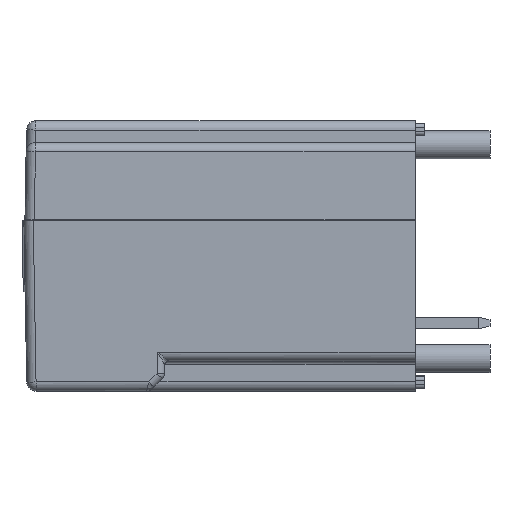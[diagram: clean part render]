
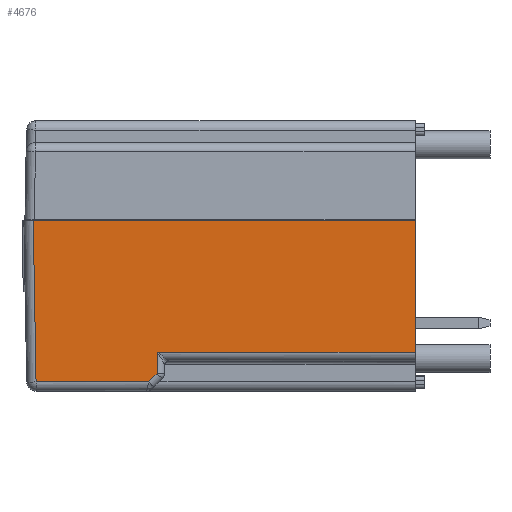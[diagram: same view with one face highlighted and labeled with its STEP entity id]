
A CAD part, left-side view. The second image highlights one B-rep face of the part: STEP entity #4676.
In plain terms, the highlighted planar face has unit normal (-1, 0, -0.018).
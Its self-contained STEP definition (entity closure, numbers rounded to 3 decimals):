
#1074=LINE('',#20410,#2244);
#1082=LINE('',#20444,#2252);
#1138=LINE('',#20579,#2308);
#1467=LINE('',#23230,#2637);
#1468=LINE('',#23232,#2638);
#1514=LINE('',#23571,#2684);
#1515=LINE('',#23572,#2685);
#2244=VECTOR('',#15885,1.);
#2252=VECTOR('',#15913,1.);
#2308=VECTOR('',#16009,1.);
#2637=VECTOR('',#17088,1.);
#2638=VECTOR('',#17091,1.);
#2684=VECTOR('',#17277,1.);
#2685=VECTOR('',#17278,1.);
#3270=PLANE('',#14141);
#3920=FACE_OUTER_BOUND('',#5713,.T.);
#4676=ADVANCED_FACE('',(#3920),#3270,.F.);
#5713=EDGE_LOOP('',(#8951,#8952,#8953,#8954,#8955,#8956,#8957));
#8951=ORIENTED_EDGE('',*,*,#11838,.F.);
#8952=ORIENTED_EDGE('',*,*,#12569,.T.);
#8953=ORIENTED_EDGE('',*,*,#11769,.T.);
#8954=ORIENTED_EDGE('',*,*,#12483,.T.);
#8955=ORIENTED_EDGE('',*,*,#12482,.T.);
#8956=ORIENTED_EDGE('',*,*,#12570,.T.);
#8957=ORIENTED_EDGE('',*,*,#11752,.T.);
#10296=VERTEX_POINT('',#20409);
#10297=VERTEX_POINT('',#20411);
#10313=VERTEX_POINT('',#20445);
#10314=VERTEX_POINT('',#20446);
#10371=VERTEX_POINT('',#20578);
#10695=VERTEX_POINT('',#22933);
#10755=VERTEX_POINT('',#23192);
#11752=EDGE_CURVE('',#10297,#10296,#1074,.T.);
#11769=EDGE_CURVE('',#10313,#10314,#1082,.T.);
#11838=EDGE_CURVE('',#10371,#10296,#1138,.T.);
#12482=EDGE_CURVE('',#10695,#10755,#1467,.T.);
#12483=EDGE_CURVE('',#10314,#10695,#1468,.T.);
#12569=EDGE_CURVE('',#10371,#10313,#1514,.T.);
#12570=EDGE_CURVE('',#10755,#10297,#1515,.T.);
#14141=AXIS2_PLACEMENT_3D('',#23573,#17279,#17280);
#15885=DIRECTION('',(-0.017,0.,1.));
#15913=DIRECTION('',(0.,-1.,0.));
#16009=DIRECTION('',(0.,-1.,0.));
#17088=DIRECTION('',(-0.017,-0.017,1.));
#17091=DIRECTION('',(-0.012,-0.707,0.707));
#17277=DIRECTION('',(0.017,-0.017,-1.));
#17278=DIRECTION('',(0.,-1.,0.));
#17279=DIRECTION('',(1.,0.,0.017));
#17280=DIRECTION('',(0.017,0.,-1.));
#20409=CARTESIAN_POINT('',(-17.635,-42.947,40.464));
#20410=CARTESIAN_POINT('',(-17.547,-42.947,35.466));
#20411=CARTESIAN_POINT('',(-17.512,-42.947,33.431));
#20444=CARTESIAN_POINT('',(-17.484,-32.447,31.831));
#20445=CARTESIAN_POINT('',(-17.484,-22.66,31.831));
#20446=CARTESIAN_POINT('',(-17.484,-28.679,31.831));
#20578=CARTESIAN_POINT('',(-17.635,-22.509,40.464));
#20579=CARTESIAN_POINT('',(-17.635,-41.447,40.464));
#22933=CARTESIAN_POINT('',(-17.492,-29.135,32.287));
#23192=CARTESIAN_POINT('',(-17.512,-29.155,33.431));
#23230=CARTESIAN_POINT('',(-17.548,-29.192,35.523));
#23232=CARTESIAN_POINT('',(-17.494,-29.254,32.405));
#23571=CARTESIAN_POINT('',(-17.484,-22.66,31.839));
#23572=CARTESIAN_POINT('',(-17.512,-32.447,33.431));
#23573=CARTESIAN_POINT('',(-17.547,-32.447,35.466));
